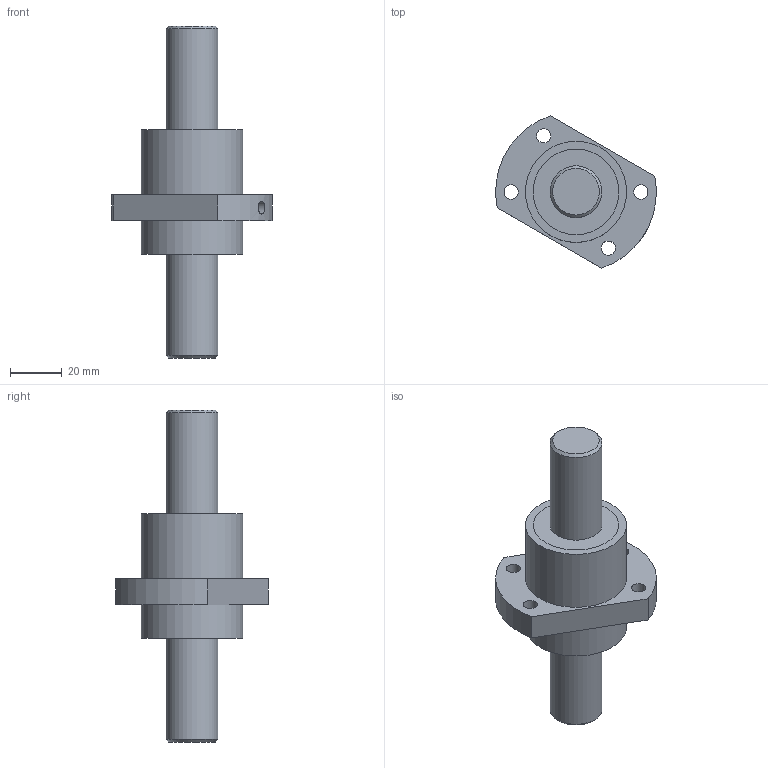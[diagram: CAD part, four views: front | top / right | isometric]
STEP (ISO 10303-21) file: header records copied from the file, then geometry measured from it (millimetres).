
FILE_DESCRIPTION(/* description */ (''),/* implementation_level */ '2;1');
FILE_NAME(/* name */ 'SFY2040.stp',/* time_stamp */ '2013-11-01T09:47:26+08:00',/* author */ (''),/* organization */ (''),/* preprocessor_version */ 'ST-DEVELOPER v11',/* originating_system */ 'SIEMENS UGS NX 6.0',/* authorisation */ '');
FILE_SCHEMA (('CONFIG_CONTROL_DESIGN'));
Length unit declared in the file: millimetre
Products named in the file (1): fann640Fk5n9
Bounding box: 61.95 x 58.76 x 128 mm (x, y, z)
Volume: 92756 mm3; surface area: 28076.7 mm2
Topology: 4 solids, 4 shells, 52 faces, 95 edges, 65 vertices
Faces by surface type: cylinder 27, plane 23, cone 2
Full cylindrical faces by diameter (mm): 3 x1, 5 x1, 5.5 x4, 20 x4, 30 x4, 33 x4, 34.5 x4, 39 x2
Entity records: 1340 total; most frequent: CARTESIAN_POINT 288, DIRECTION 220, ORIENTED_EDGE 124, EDGE_LOOP 106, AXIS2_PLACEMENT_3D 106, FACE_BOUND 100, EDGE_CURVE 62, VERTEX_POINT 58
